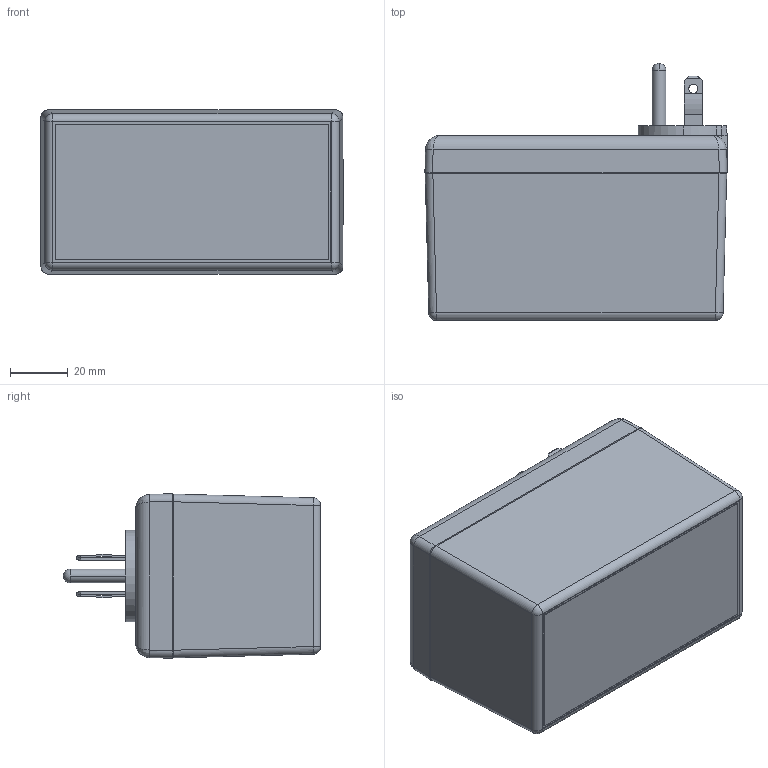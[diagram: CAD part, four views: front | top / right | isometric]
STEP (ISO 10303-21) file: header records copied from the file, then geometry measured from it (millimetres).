
FILE_DESCRIPTION (( 'STEP AP214' ), '1' );
FILE_NAME ('PM2425T03XNT.STEP', '2010-07-15T14:19:36', ( '' ), ( '' ), 'SwSTEP 2.0', 'SolidWorks 2010', '' );
FILE_SCHEMA (( 'AUTOMOTIVE_DESIGN' ));
Length unit declared in the file: inch
Products named in the file (10): TS-2420B AND PM2420_TS-2420BP; B2405 ASS''Y_B24053XNT; MPB2405_MPB24053NT; GND-PIN; BLADES; WELD DISC-PS-BK; GND-TAB; SCREWS-HL1-BR; B2405-PCB; PM2425T03XNT
Assembly tree (13 placements, depth 3):
  PM2425T03XNT
    B2405-PCB
    TS-2420B AND PM2420_TS-2420BP
    SCREWS-HL1-BR  x4
    B2405 ASS''Y_B24053XNT
      MPB2405_MPB24053NT
      GND-TAB
      BLADES  x2
      WELD DISC-PS-BK
      GND-PIN
Bounding box: 104.6 x 89.03 x 56.95 mm (x, y, z)
Volume: 89768.3 mm3; surface area: 83174.4 mm2
Topology: 12 solids, 12 shells, 955 faces, 2656 edges, 1735 vertices
Faces by surface type: cylinder 522, plane 302, cone 77, bspline 28, sphere 14, torus 12
Entity records: 20659 total; most frequent: CARTESIAN_POINT 6556, ORIENTED_EDGE 3030, DIRECTION 2727, EDGE_CURVE 1515, VERTEX_POINT 985, AXIS2_PLACEMENT_3D 981, VECTOR 765, LINE 765
